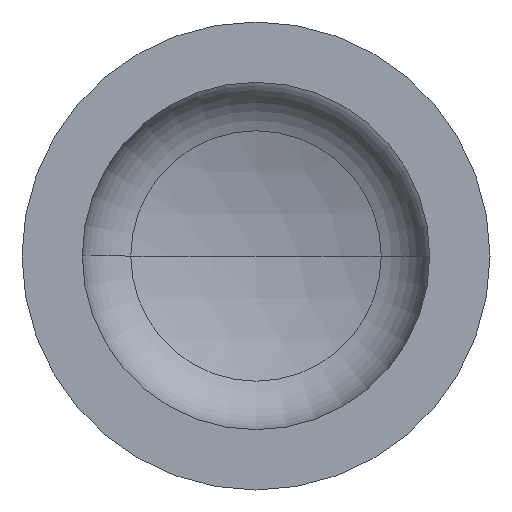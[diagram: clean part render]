
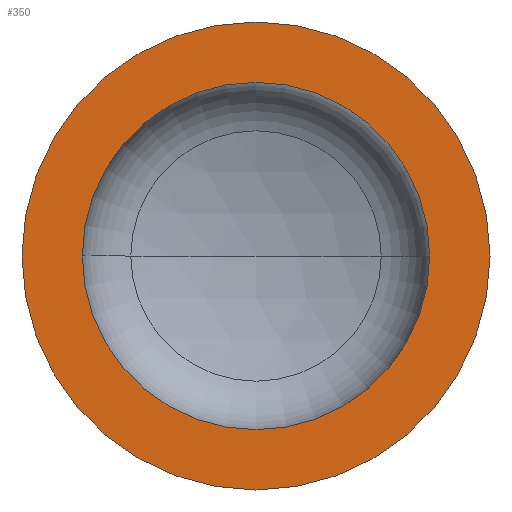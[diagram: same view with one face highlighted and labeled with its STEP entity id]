
A CAD part, front view. The second image highlights one B-rep face of the part: STEP entity #350.
In plain terms, the highlighted planar face has unit normal (0, -1, 0).
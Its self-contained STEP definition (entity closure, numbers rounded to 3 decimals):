
#3 = AXIS2_PLACEMENT_3D ( 'NONE', #286, #145, #374 ) ;
#8 = CIRCLE ( 'NONE', #204, 450. ) ;
#25 = ORIENTED_EDGE ( 'NONE', *, *, #365, .T. ) ;
#27 = EDGE_LOOP ( 'NONE', ( #25, #143 ) ) ;
#39 = CIRCLE ( 'NONE', #3, 334. ) ;
#43 = AXIS2_PLACEMENT_3D ( 'NONE', #347, #344, #342 ) ;
#44 = AXIS2_PLACEMENT_3D ( 'NONE', #316, #315, #179 ) ;
#53 = VERTEX_POINT ( 'NONE', #293 ) ;
#59 = EDGE_CURVE ( 'NONE', #64, #53, #142, .T. ) ;
#61 = EDGE_CURVE ( 'NONE', #151, #368, #406, .T. ) ;
#63 = ORIENTED_EDGE ( 'NONE', *, *, #345, .F. ) ;
#64 = VERTEX_POINT ( 'NONE', #270 ) ;
#82 = DIRECTION ( 'NONE',  ( 0., 1., 0. ) ) ;
#89 = EDGE_LOOP ( 'NONE', ( #410, #63 ) ) ;
#111 = CARTESIAN_POINT ( 'NONE',  ( 0., 0., 0. ) ) ;
#114 = DIRECTION ( 'NONE',  ( 0., -1., 0. ) ) ;
#139 = CARTESIAN_POINT ( 'NONE',  ( -334., 0., 0. ) ) ;
#142 = CIRCLE ( 'NONE', #44, 450. ) ;
#143 = ORIENTED_EDGE ( 'NONE', *, *, #59, .T. ) ;
#145 = DIRECTION ( 'NONE',  ( 0., -1., 0. ) ) ;
#151 = VERTEX_POINT ( 'NONE', #202 ) ;
#153 = AXIS2_PLACEMENT_3D ( 'NONE', #323, #82, #351 ) ;
#179 = DIRECTION ( 'NONE',  ( 1., 0., 0. ) ) ;
#202 = CARTESIAN_POINT ( 'NONE',  ( 334., 0., 0. ) ) ;
#204 = AXIS2_PLACEMENT_3D ( 'NONE', #111, #114, #308 ) ;
#231 = PLANE ( 'NONE',  #153 ) ;
#270 = CARTESIAN_POINT ( 'NONE',  ( -450., 0., 0. ) ) ;
#286 = CARTESIAN_POINT ( 'NONE',  ( 0., 0., 0. ) ) ;
#293 = CARTESIAN_POINT ( 'NONE',  ( 450., 0., 0. ) ) ;
#303 = FACE_OUTER_BOUND ( 'NONE', #27, .T. ) ;
#308 = DIRECTION ( 'NONE',  ( 1., 0., 0. ) ) ;
#315 = DIRECTION ( 'NONE',  ( 0., -1., 0. ) ) ;
#316 = CARTESIAN_POINT ( 'NONE',  ( 0., 0., 0. ) ) ;
#323 = CARTESIAN_POINT ( 'NONE',  ( -450., 0., 0. ) ) ;
#342 = DIRECTION ( 'NONE',  ( 1., 0., 0. ) ) ;
#344 = DIRECTION ( 'NONE',  ( 0., -1., 0. ) ) ;
#345 = EDGE_CURVE ( 'NONE', #368, #151, #39, .T. ) ;
#347 = CARTESIAN_POINT ( 'NONE',  ( 0., 0., 0. ) ) ;
#350 = ADVANCED_FACE ( 'NONE', ( #364, #303 ), #231, .F. ) ;
#351 = DIRECTION ( 'NONE',  ( -1., 0., 0. ) ) ;
#364 = FACE_BOUND ( 'NONE', #89, .T. ) ;
#365 = EDGE_CURVE ( 'NONE', #53, #64, #8, .T. ) ;
#368 = VERTEX_POINT ( 'NONE', #139 ) ;
#374 = DIRECTION ( 'NONE',  ( 1., 0., 0. ) ) ;
#406 = CIRCLE ( 'NONE', #43, 334. ) ;
#410 = ORIENTED_EDGE ( 'NONE', *, *, #61, .F. ) ;
